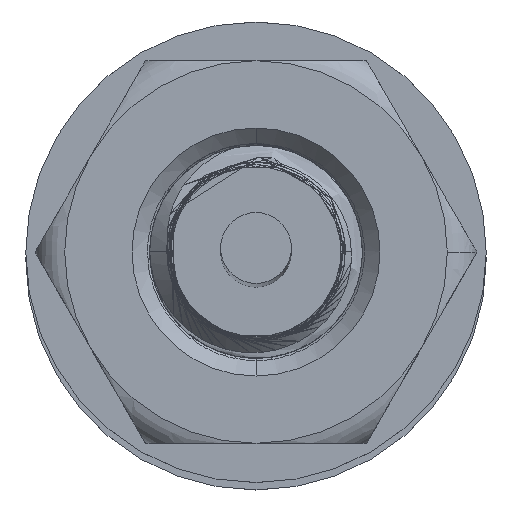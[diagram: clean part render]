
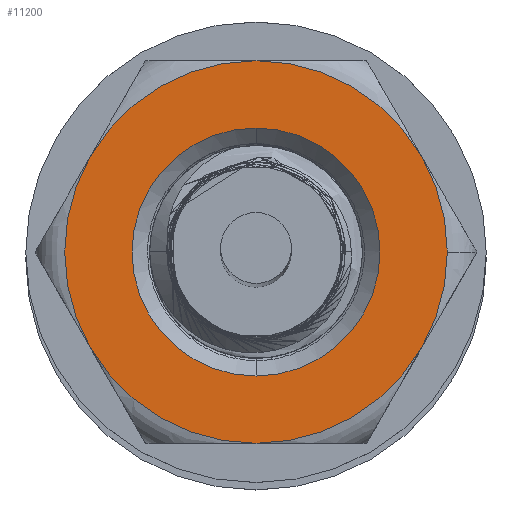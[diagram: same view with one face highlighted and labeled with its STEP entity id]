
A CAD part, top view. The second image highlights one B-rep face of the part: STEP entity #11200.
In plain terms, the highlighted planar face has unit normal (0, 0, 1) as drawn and (0, 1, 0) by its records, which use the part's own axes.
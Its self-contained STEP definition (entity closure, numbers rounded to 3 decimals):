
#60 = ORIENTED_EDGE ( 'NONE', *, *, #825, .T. ) ;
#82 = AXIS2_PLACEMENT_3D ( 'NONE', #6966, #8113, #6844 ) ;
#133 = AXIS2_PLACEMENT_3D ( 'NONE', #1128, #12505, #1330 ) ;
#513 = CARTESIAN_POINT ( 'NONE',  ( 2.338, 1., 1.35 ) ) ;
#556 = CARTESIAN_POINT ( 'NONE',  ( 0., 1., 0. ) ) ;
#570 = CIRCLE ( 'NONE', #133, 2.7 ) ;
#603 = EDGE_CURVE ( 'NONE', #6548, #9852, #4836, .T. ) ;
#748 = EDGE_CURVE ( 'NONE', #7789, #6548, #3333, .T. ) ;
#756 = CIRCLE ( 'NONE', #1837, 2.7 ) ;
#775 = ORIENTED_EDGE ( 'NONE', *, *, #7535, .T. ) ;
#825 = EDGE_CURVE ( 'NONE', #2845, #11494, #3111, .T. ) ;
#1128 = CARTESIAN_POINT ( 'NONE',  ( 0., 1., 0. ) ) ;
#1330 = DIRECTION ( 'NONE',  ( 0., 0., 1. ) ) ;
#1600 = AXIS2_PLACEMENT_3D ( 'NONE', #12878, #4675, #11865 ) ;
#1837 = AXIS2_PLACEMENT_3D ( 'NONE', #9174, #10196, #3894 ) ;
#1866 = CIRCLE ( 'NONE', #12030, 1.75 ) ;
#2003 = CARTESIAN_POINT ( 'NONE',  ( 0., 1., 0. ) ) ;
#2212 = ORIENTED_EDGE ( 'NONE', *, *, #603, .T. ) ;
#2845 = VERTEX_POINT ( 'NONE', #6427 ) ;
#3111 = CIRCLE ( 'NONE', #82, 2.7 ) ;
#3257 = PLANE ( 'NONE',  #4027 ) ;
#3333 = CIRCLE ( 'NONE', #12641, 2.7 ) ;
#3657 = DIRECTION ( 'NONE',  ( 0., 1., 0. ) ) ;
#3894 = DIRECTION ( 'NONE',  ( 0., 0., 1. ) ) ;
#4027 = AXIS2_PLACEMENT_3D ( 'NONE', #9471, #12329, #4337 ) ;
#4312 = DIRECTION ( 'NONE',  ( 0., 0., 1. ) ) ;
#4337 = DIRECTION ( 'NONE',  ( 0., 0., 1. ) ) ;
#4675 = DIRECTION ( 'NONE',  ( 0., 1., 0. ) ) ;
#4836 = CIRCLE ( 'NONE', #1600, 2.7 ) ;
#5760 = DIRECTION ( 'NONE',  ( 0., 0., 1. ) ) ;
#5766 = DIRECTION ( 'NONE',  ( 0., 0., 1. ) ) ;
#5912 = CARTESIAN_POINT ( 'NONE',  ( -2.338, 1., 1.35 ) ) ;
#5995 = DIRECTION ( 'NONE',  ( 0., -1., 0. ) ) ;
#6109 = ORIENTED_EDGE ( 'NONE', *, *, #10860, .T. ) ;
#6373 = CARTESIAN_POINT ( 'NONE',  ( 0., 1., 1.75 ) ) ;
#6427 = CARTESIAN_POINT ( 'NONE',  ( 0., 1., -2.7 ) ) ;
#6485 = EDGE_LOOP ( 'NONE', ( #6109, #9888 ) ) ;
#6539 = ORIENTED_EDGE ( 'NONE', *, *, #9695, .F. ) ;
#6548 = VERTEX_POINT ( 'NONE', #9882 ) ;
#6844 = DIRECTION ( 'NONE',  ( 0., 0., 1. ) ) ;
#6966 = CARTESIAN_POINT ( 'NONE',  ( 0., 1., 0. ) ) ;
#6972 = CARTESIAN_POINT ( 'NONE',  ( 0., 1., 0. ) ) ;
#7026 = DIRECTION ( 'NONE',  ( 0., -1., 0. ) ) ;
#7240 = AXIS2_PLACEMENT_3D ( 'NONE', #11694, #12647, #4312 ) ;
#7376 = EDGE_CURVE ( 'NONE', #10197, #11467, #756, .T. ) ;
#7535 = EDGE_CURVE ( 'NONE', #9852, #2845, #8746, .T. ) ;
#7789 = VERTEX_POINT ( 'NONE', #513 ) ;
#7942 = ORIENTED_EDGE ( 'NONE', *, *, #9866, .T. ) ;
#8113 = DIRECTION ( 'NONE',  ( 0., 1., 0. ) ) ;
#8344 = CIRCLE ( 'NONE', #12044, 1.75 ) ;
#8392 = FACE_BOUND ( 'NONE', #6485, .T. ) ;
#8746 = CIRCLE ( 'NONE', #7240, 2.7 ) ;
#8986 = CARTESIAN_POINT ( 'NONE',  ( 0., 1., 0. ) ) ;
#9174 = CARTESIAN_POINT ( 'NONE',  ( 0., 1., 0. ) ) ;
#9368 = CARTESIAN_POINT ( 'NONE',  ( 2.338, 1., -1.35 ) ) ;
#9471 = CARTESIAN_POINT ( 'NONE',  ( 0., 1., 0. ) ) ;
#9511 = ORIENTED_EDGE ( 'NONE', *, *, #7376, .T. ) ;
#9600 = VERTEX_POINT ( 'NONE', #10945 ) ;
#9695 = EDGE_CURVE ( 'NONE', #7789, #11467, #10508, .T. ) ;
#9852 = VERTEX_POINT ( 'NONE', #9368 ) ;
#9866 = EDGE_CURVE ( 'NONE', #11494, #10197, #570, .T. ) ;
#9882 = CARTESIAN_POINT ( 'NONE',  ( 2.7, 1., 0. ) ) ;
#9888 = ORIENTED_EDGE ( 'NONE', *, *, #11454, .T. ) ;
#10156 = DIRECTION ( 'NONE',  ( 0., -1., 0. ) ) ;
#10196 = DIRECTION ( 'NONE',  ( 0., 1., 0. ) ) ;
#10197 = VERTEX_POINT ( 'NONE', #5912 ) ;
#10508 = CIRCLE ( 'NONE', #13314, 2.7 ) ;
#10860 = EDGE_CURVE ( 'NONE', #11175, #9600, #1866, .T. ) ;
#10945 = CARTESIAN_POINT ( 'NONE',  ( 0., 1., -1.75 ) ) ;
#11163 = DIRECTION ( 'NONE',  ( 0., 0., 1. ) ) ;
#11175 = VERTEX_POINT ( 'NONE', #6373 ) ;
#11200 = ADVANCED_FACE ( 'NONE', ( #8392, #11453 ), #3257, .T. ) ;
#11453 = FACE_OUTER_BOUND ( 'NONE', #12975, .T. ) ;
#11454 = EDGE_CURVE ( 'NONE', #9600, #11175, #8344, .T. ) ;
#11467 = VERTEX_POINT ( 'NONE', #12998 ) ;
#11494 = VERTEX_POINT ( 'NONE', #13131 ) ;
#11694 = CARTESIAN_POINT ( 'NONE',  ( 0., 1., 0. ) ) ;
#11735 = ORIENTED_EDGE ( 'NONE', *, *, #748, .T. ) ;
#11865 = DIRECTION ( 'NONE',  ( 0., 0., 1. ) ) ;
#12030 = AXIS2_PLACEMENT_3D ( 'NONE', #6972, #10156, #5766 ) ;
#12044 = AXIS2_PLACEMENT_3D ( 'NONE', #8986, #7026, #11163 ) ;
#12329 = DIRECTION ( 'NONE',  ( 0., 1., 0. ) ) ;
#12505 = DIRECTION ( 'NONE',  ( 0., 1., 0. ) ) ;
#12641 = AXIS2_PLACEMENT_3D ( 'NONE', #556, #3657, #5760 ) ;
#12647 = DIRECTION ( 'NONE',  ( 0., 1., 0. ) ) ;
#12878 = CARTESIAN_POINT ( 'NONE',  ( 0., 1., 0. ) ) ;
#12975 = EDGE_LOOP ( 'NONE', ( #9511, #6539, #11735, #2212, #775, #60, #7942 ) ) ;
#12998 = CARTESIAN_POINT ( 'NONE',  ( 0., 1., 2.7 ) ) ;
#13131 = CARTESIAN_POINT ( 'NONE',  ( -2.338, 1., -1.35 ) ) ;
#13237 = DIRECTION ( 'NONE',  ( 1., 0., 0. ) ) ;
#13314 = AXIS2_PLACEMENT_3D ( 'NONE', #2003, #5995, #13237 ) ;
